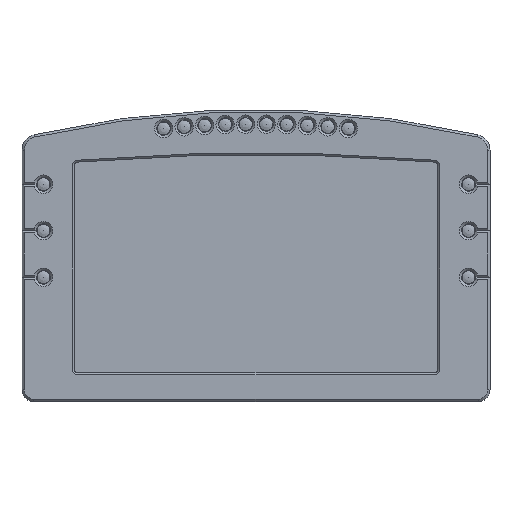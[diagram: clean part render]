
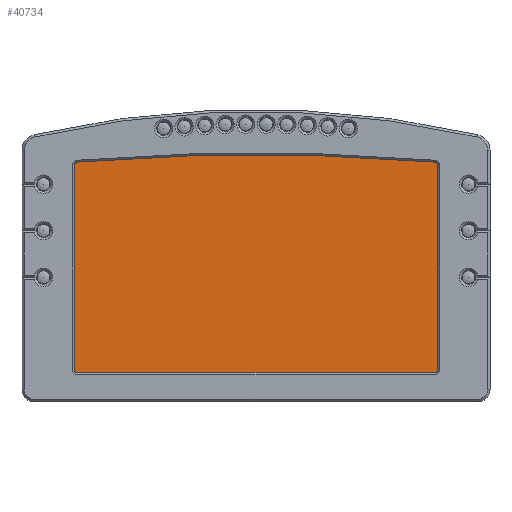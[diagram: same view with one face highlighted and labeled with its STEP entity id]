
A CAD part, top view. The second image highlights one B-rep face of the part: STEP entity #40734.
In plain terms, the highlighted planar face has unit normal (0, 0, 1).
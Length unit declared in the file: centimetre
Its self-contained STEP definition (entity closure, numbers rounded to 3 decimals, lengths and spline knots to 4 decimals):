
#1775=PLANE('',#42623);
#2756=VECTOR('',#47798,1.);
#2763=VECTOR('',#47822,1.);
#2765=VECTOR('',#47829,1.);
#5407=LINE('',#59187,#2756);
#5414=LINE('',#59209,#2763);
#5416=LINE('',#59215,#2765);
#8128=VERTEX_POINT('',#59186);
#8129=VERTEX_POINT('',#59188);
#8130=VERTEX_POINT('',#59192);
#8131=VERTEX_POINT('',#59196);
#8132=VERTEX_POINT('',#59200);
#8133=VERTEX_POINT('',#59204);
#8134=VERTEX_POINT('',#59208);
#8135=VERTEX_POINT('',#59212);
#13315=CIRCLE('',#42612,0.15);
#13316=CIRCLE('',#42614,90.);
#13317=CIRCLE('',#42616,0.15);
#13318=CIRCLE('',#42618,0.15);
#13319=CIRCLE('',#42621,0.15);
#16663=EDGE_CURVE('',#8129,#8128,#5407,.T.);
#16666=EDGE_CURVE('',#8128,#8130,#13315,.T.);
#16668=EDGE_CURVE('',#8130,#8131,#13316,.T.);
#16670=EDGE_CURVE('',#8131,#8132,#13317,.T.);
#16671=EDGE_CURVE('',#8133,#8129,#13318,.T.);
#16674=EDGE_CURVE('',#8132,#8134,#5414,.T.);
#16676=EDGE_CURVE('',#8134,#8135,#13319,.T.);
#16677=EDGE_CURVE('',#8135,#8133,#5416,.T.);
#23681=ORIENTED_EDGE('',*,*,#16671,.T.);
#23682=ORIENTED_EDGE('',*,*,#16663,.T.);
#23683=ORIENTED_EDGE('',*,*,#16666,.T.);
#23684=ORIENTED_EDGE('',*,*,#16668,.T.);
#23685=ORIENTED_EDGE('',*,*,#16670,.T.);
#23686=ORIENTED_EDGE('',*,*,#16674,.T.);
#23687=ORIENTED_EDGE('',*,*,#16676,.T.);
#23688=ORIENTED_EDGE('',*,*,#16677,.T.);
#36689=EDGE_LOOP('',(#23681,#23682,#23683,#23684,#23685,#23686,#23687,#23688));
#38742=FACE_BOUND('',#36689,.T.);
#40734=ADVANCED_FACE('',(#38742),#1775,.T.);
#42612=AXIS2_PLACEMENT_3D('',#59193,#47803,#47804);
#42614=AXIS2_PLACEMENT_3D('',#59197,#47808,#47809);
#42616=AXIS2_PLACEMENT_3D('',#59201,#47813,#47814);
#42618=AXIS2_PLACEMENT_3D('',#59203,#47817,#47818);
#42621=AXIS2_PLACEMENT_3D('',#59213,#47826,#47827);
#42623=AXIS2_PLACEMENT_3D('',#59216,#47830,$);
#47798=DIRECTION('',(0.,1.,0.));
#47803=DIRECTION('',(0.,0.,1.));
#47804=DIRECTION('',(0.15,0.,0.));
#47808=DIRECTION('',(0.,0.,1.));
#47809=DIRECTION('',(90.,0.,0.));
#47813=DIRECTION('',(0.,0.,1.));
#47814=DIRECTION('',(0.15,0.,0.));
#47817=DIRECTION('',(0.,0.,1.));
#47818=DIRECTION('',(0.15,0.,0.));
#47822=DIRECTION('',(0.,-1.,0.));
#47826=DIRECTION('',(0.,0.,1.));
#47827=DIRECTION('',(0.15,0.,0.));
#47829=DIRECTION('',(1.,0.,0.));
#47830=DIRECTION('',(0.,0.,1.));
#59186=CARTESIAN_POINT('',(17.43,9.8889,2.33));
#59187=CARTESIAN_POINT('',(17.43,1.35,2.33));
#59188=CARTESIAN_POINT('',(17.43,1.35,2.33));
#59192=CARTESIAN_POINT('',(17.2925,10.0384,2.33));
#59193=CARTESIAN_POINT('',(17.28,9.8889,2.33));
#59196=CARTESIAN_POINT('',(2.3275,10.0384,2.33));
#59197=CARTESIAN_POINT('',(9.81,-79.65,2.33));
#59200=CARTESIAN_POINT('',(2.19,9.8889,2.33));
#59201=CARTESIAN_POINT('',(2.34,9.8889,2.33));
#59203=CARTESIAN_POINT('',(17.28,1.35,2.33));
#59204=CARTESIAN_POINT('',(17.28,1.2,2.33));
#59208=CARTESIAN_POINT('',(2.19,1.35,2.33));
#59209=CARTESIAN_POINT('',(2.19,9.8889,2.33));
#59212=CARTESIAN_POINT('',(2.34,1.2,2.33));
#59213=CARTESIAN_POINT('',(2.34,1.35,2.33));
#59215=CARTESIAN_POINT('',(2.34,1.2,2.33));
#59216=CARTESIAN_POINT('',(9.81,5.6793,2.33));
